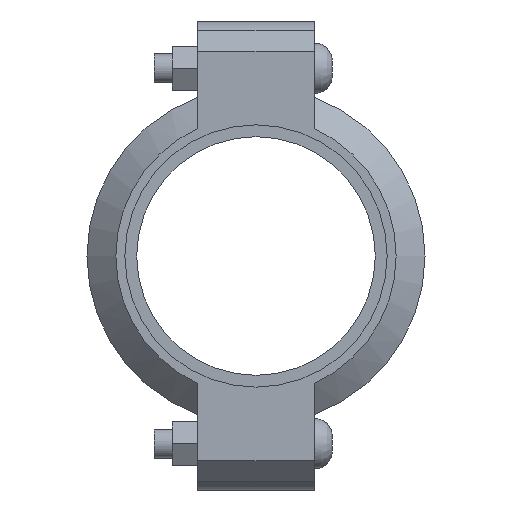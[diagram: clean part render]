
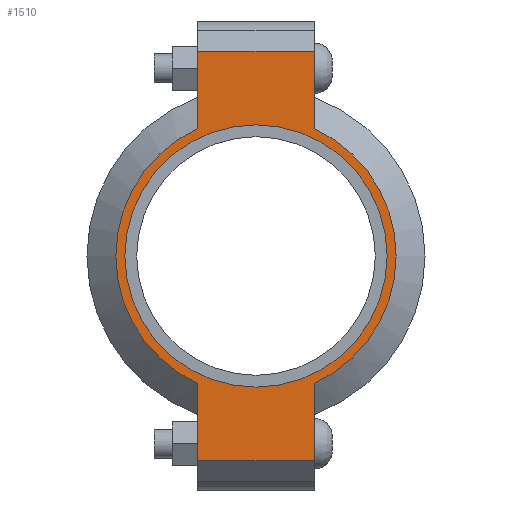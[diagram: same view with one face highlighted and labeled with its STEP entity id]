
A CAD part, left-side view. The second image highlights one B-rep face of the part: STEP entity #1510.
In plain terms, the highlighted planar face has unit normal (-1, 0, 0) as drawn and (0, 0, 1) by its records, which use the part's own axes.
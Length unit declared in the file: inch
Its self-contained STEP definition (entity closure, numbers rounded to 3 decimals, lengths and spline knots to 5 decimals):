
#134=LINE('',#2635,#227);
#142=LINE('',#2671,#235);
#149=LINE('',#2692,#242);
#158=LINE('',#2724,#251);
#159=LINE('',#2728,#252);
#160=LINE('',#2730,#253);
#227=VECTOR('',#2155,0.3937);
#235=VECTOR('',#2171,0.3937);
#242=VECTOR('',#2190,0.3937);
#251=VECTOR('',#2215,0.3937);
#252=VECTOR('',#2220,0.3937);
#253=VECTOR('',#2221,0.3937);
#309=FACE_BOUND('',#487,.T.);
#381=FACE_OUTER_BOUND('',#486,.T.);
#486=EDGE_LOOP('',(#1251,#1252,#1253,#1254,#1255,#1256,#1257,#1258));
#487=EDGE_LOOP('',(#1259));
#559=CIRCLE('',#1729,2.25);
#585=CIRCLE('',#1788,2.405);
#586=CIRCLE('',#1789,2.405);
#651=VERTEX_POINT('',#2451);
#694=VERTEX_POINT('',#2632);
#695=VERTEX_POINT('',#2634);
#706=VERTEX_POINT('',#2666);
#707=VERTEX_POINT('',#2670);
#714=VERTEX_POINT('',#2689);
#715=VERTEX_POINT('',#2691);
#725=VERTEX_POINT('',#2727);
#726=VERTEX_POINT('',#2729);
#807=EDGE_CURVE('',#651,#651,#559,.T.);
#868=EDGE_CURVE('',#695,#694,#134,.T.);
#882=EDGE_CURVE('',#707,#706,#142,.T.);
#892=EDGE_CURVE('',#715,#714,#149,.T.);
#907=EDGE_CURVE('',#707,#694,#158,.T.);
#908=EDGE_CURVE('',#706,#715,#585,.T.);
#909=EDGE_CURVE('',#725,#714,#159,.T.);
#910=EDGE_CURVE('',#725,#726,#160,.T.);
#911=EDGE_CURVE('',#726,#695,#586,.T.);
#1251=ORIENTED_EDGE('',*,*,#907,.F.);
#1252=ORIENTED_EDGE('',*,*,#882,.T.);
#1253=ORIENTED_EDGE('',*,*,#908,.T.);
#1254=ORIENTED_EDGE('',*,*,#892,.T.);
#1255=ORIENTED_EDGE('',*,*,#909,.F.);
#1256=ORIENTED_EDGE('',*,*,#910,.T.);
#1257=ORIENTED_EDGE('',*,*,#911,.T.);
#1258=ORIENTED_EDGE('',*,*,#868,.T.);
#1259=ORIENTED_EDGE('',*,*,#807,.T.);
#1352=PLANE('',#1787);
#1510=ADVANCED_FACE('',(#381,#309),#1352,.T.);
#1729=AXIS2_PLACEMENT_3D('',#2453,#2031,#2032);
#1787=AXIS2_PLACEMENT_3D('',#2725,#2216,#2217);
#1788=AXIS2_PLACEMENT_3D('',#2726,#2218,#2219);
#1789=AXIS2_PLACEMENT_3D('',#2731,#2222,#2223);
#2031=DIRECTION('center_axis',(0.,0.,-1.));
#2032=DIRECTION('ref_axis',(-1.,0.,0.));
#2155=DIRECTION('',(-1.,0.,0.));
#2171=DIRECTION('',(1.,0.,0.));
#2190=DIRECTION('',(1.,0.,0.));
#2215=DIRECTION('',(0.,1.,0.));
#2216=DIRECTION('center_axis',(0.,0.,1.));
#2217=DIRECTION('ref_axis',(1.,0.,0.));
#2218=DIRECTION('center_axis',(0.,0.,1.));
#2219=DIRECTION('ref_axis',(-1.,0.,0.));
#2220=DIRECTION('',(0.,-1.,0.));
#2221=DIRECTION('',(-1.,0.,0.));
#2222=DIRECTION('center_axis',(0.,0.,1.));
#2223=DIRECTION('ref_axis',(-1.,0.,0.));
#2451=CARTESIAN_POINT('',(2.25,0.,1.065));
#2453=CARTESIAN_POINT('Origin',(0.,0.,1.065));
#2632=CARTESIAN_POINT('',(-3.515,1.,1.065));
#2634=CARTESIAN_POINT('',(-2.18724,1.,1.065));
#2635=CARTESIAN_POINT('',(-4.015,1.,1.065));
#2666=CARTESIAN_POINT('',(-2.18724,-1.,1.065));
#2670=CARTESIAN_POINT('',(-3.515,-1.,1.065));
#2671=CARTESIAN_POINT('',(4.015,-1.,1.065));
#2689=CARTESIAN_POINT('',(3.515,-1.,1.065));
#2691=CARTESIAN_POINT('',(2.18724,-1.,1.065));
#2692=CARTESIAN_POINT('',(4.015,-1.,1.065));
#2724=CARTESIAN_POINT('',(-3.515,0.5,1.065));
#2725=CARTESIAN_POINT('Origin',(0.,0.,1.065));
#2726=CARTESIAN_POINT('Origin',(0.,0.,1.065));
#2727=CARTESIAN_POINT('',(3.515,1.,1.065));
#2728=CARTESIAN_POINT('',(3.515,-0.5,1.065));
#2729=CARTESIAN_POINT('',(2.18724,1.,1.065));
#2730=CARTESIAN_POINT('',(-4.015,1.,1.065));
#2731=CARTESIAN_POINT('Origin',(0.,0.,1.065));
